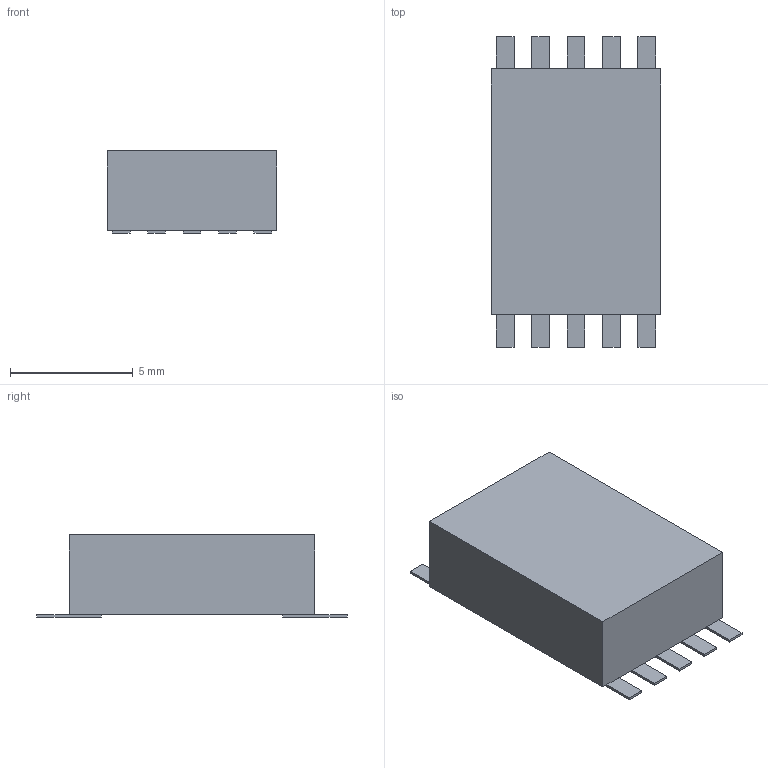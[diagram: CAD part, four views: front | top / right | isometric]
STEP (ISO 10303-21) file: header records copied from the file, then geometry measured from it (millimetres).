
FILE_DESCRIPTION(('FreeCAD Model'),'2;1');
FILE_NAME('/var/www/3D/0T/1429893.1.3.stp','2023-11-22T14:24:19',( 'Author'),(''),'Open CASCADE STEP processor 6.9','FreeCAD','Unknown' );
FILE_SCHEMA(('AUTOMOTIVE_DESIGN { 1 0 10303 214 1 1 1 1 }'));
Length unit declared in the file: millimetre
Products named in the file (3): ASSEMBLY; Body; Pins
Assembly tree (2 placements, depth 2):
  ASSEMBLY
    Body
    Pins
Bounding box: 6.9 x 12.62 x 3.35 mm (x, y, z)
Volume: 226.1 mm3; surface area: 292.3 mm2
Topology: 11 solids, 11 shells, 66 faces, 132 edges, 88 vertices
Faces by surface type: plane 66
Entity records: 3521 total; most frequent: CARTESIAN_POINT 553, DIRECTION 534, LINE 396, VECTOR 396, ORIENTED_EDGE 264, PCURVE 264, DEFINITIONAL_REPRESENTATION 264, EDGE_CURVE 132
